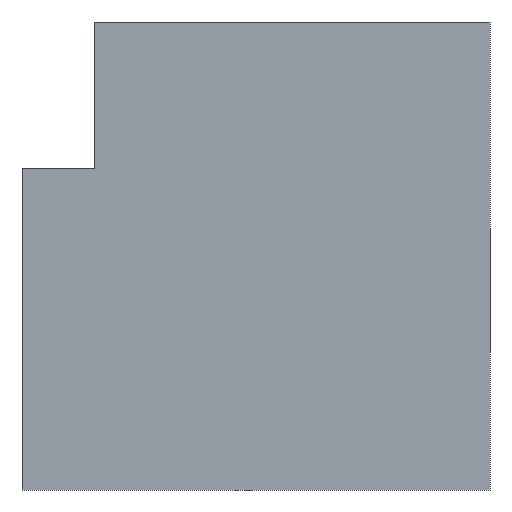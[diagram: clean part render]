
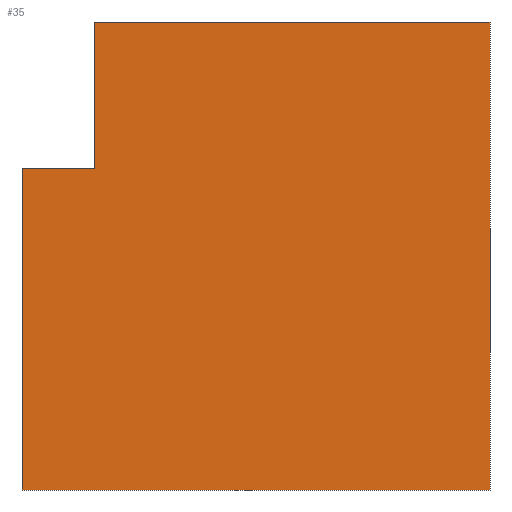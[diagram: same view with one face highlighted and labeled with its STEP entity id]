
A CAD part, front view. The second image highlights one B-rep face of the part: STEP entity #35.
In plain terms, the highlighted planar face has unit normal (0, -1, 0).
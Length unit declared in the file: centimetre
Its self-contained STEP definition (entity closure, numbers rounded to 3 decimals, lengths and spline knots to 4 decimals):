
#17 = DIRECTION ( 'NONE',  ( -1., 0., 0. ) ) ;
#19 = VECTOR ( 'NONE', #17, 100. ) ;
#22 = CARTESIAN_POINT ( 'NONE',  ( 1000., 0., 1000. ) ) ;
#28 = CARTESIAN_POINT ( 'NONE',  ( 0., 0., 0. ) ) ;
#35 = ADVANCED_FACE ( 'NONE', ( #246 ), #485, .F. ) ;
#40 = EDGE_CURVE ( 'NONE', #46, #151, #288, .T. ) ;
#46 = VERTEX_POINT ( 'NONE', #249 ) ;
#54 = VERTEX_POINT ( 'NONE', #291 ) ;
#78 = DIRECTION ( 'NONE',  ( 0., 0., -1. ) ) ;
#83 = VECTOR ( 'NONE', #218, 100. ) ;
#93 = LINE ( 'NONE', #22, #277 ) ;
#97 = EDGE_CURVE ( 'NONE', #499, #139, #103, .T. ) ;
#103 = LINE ( 'NONE', #254, #83 ) ;
#126 = VECTOR ( 'NONE', #194, 100. ) ;
#129 = ORIENTED_EDGE ( 'NONE', *, *, #323, .T. ) ;
#133 = ORIENTED_EDGE ( 'NONE', *, *, #182, .F. ) ;
#134 = DIRECTION ( 'NONE',  ( 0., 0., 1. ) ) ;
#139 = VERTEX_POINT ( 'NONE', #489 ) ;
#151 = VERTEX_POINT ( 'NONE', #368 ) ;
#158 = ORIENTED_EDGE ( 'NONE', *, *, #97, .F. ) ;
#166 = ORIENTED_EDGE ( 'NONE', *, *, #463, .T. ) ;
#172 = CARTESIAN_POINT ( 'NONE',  ( 153.9867, 0., 1000. ) ) ;
#179 = DIRECTION ( 'NONE',  ( 0., 1., 0. ) ) ;
#180 = VECTOR ( 'NONE', #223, 100. ) ;
#182 = EDGE_CURVE ( 'NONE', #139, #392, #93, .T. ) ;
#194 = DIRECTION ( 'NONE',  ( 0., 0., -1. ) ) ;
#205 = VECTOR ( 'NONE', #78, 100. ) ;
#217 = EDGE_CURVE ( 'NONE', #54, #392, #305, .T. ) ;
#218 = DIRECTION ( 'NONE',  ( 1., 0., 0. ) ) ;
#220 = LINE ( 'NONE', #339, #126 ) ;
#223 = DIRECTION ( 'NONE',  ( 1., 0., 0. ) ) ;
#232 = ORIENTED_EDGE ( 'NONE', *, *, #40, .T. ) ;
#238 = CARTESIAN_POINT ( 'NONE',  ( 1000., 0., 0. ) ) ;
#246 = FACE_OUTER_BOUND ( 'NONE', #436, .T. ) ;
#249 = CARTESIAN_POINT ( 'NONE',  ( 153.9867, 0., 687.4269 ) ) ;
#254 = CARTESIAN_POINT ( 'NONE',  ( 0., 0., 1000. ) ) ;
#269 = LINE ( 'NONE', #426, #205 ) ;
#277 = VECTOR ( 'NONE', #449, 100. ) ;
#288 = LINE ( 'NONE', #444, #19 ) ;
#291 = CARTESIAN_POINT ( 'NONE',  ( 0., 0., 0. ) ) ;
#305 = LINE ( 'NONE', #28, #180 ) ;
#323 = EDGE_CURVE ( 'NONE', #151, #54, #220, .T. ) ;
#339 = CARTESIAN_POINT ( 'NONE',  ( 0., 0., 1000. ) ) ;
#348 = ORIENTED_EDGE ( 'NONE', *, *, #217, .T. ) ;
#363 = CARTESIAN_POINT ( 'NONE',  ( 0., 0., 1000. ) ) ;
#368 = CARTESIAN_POINT ( 'NONE',  ( 0., 0., 687.4269 ) ) ;
#392 = VERTEX_POINT ( 'NONE', #238 ) ;
#426 = CARTESIAN_POINT ( 'NONE',  ( 153.9867, 0., 687.4269 ) ) ;
#436 = EDGE_LOOP ( 'NONE', ( #166, #232, #129, #348, #133, #158 ) ) ;
#440 = AXIS2_PLACEMENT_3D ( 'NONE', #363, #179, #134 ) ;
#444 = CARTESIAN_POINT ( 'NONE',  ( 0., 0., 687.4269 ) ) ;
#449 = DIRECTION ( 'NONE',  ( 0., 0., -1. ) ) ;
#463 = EDGE_CURVE ( 'NONE', #499, #46, #269, .T. ) ;
#485 = PLANE ( 'NONE',  #440 ) ;
#489 = CARTESIAN_POINT ( 'NONE',  ( 1000., 0., 1000. ) ) ;
#499 = VERTEX_POINT ( 'NONE', #172 ) ;
